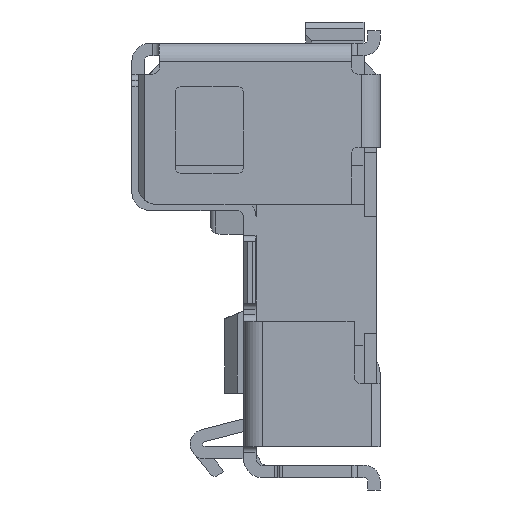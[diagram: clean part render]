
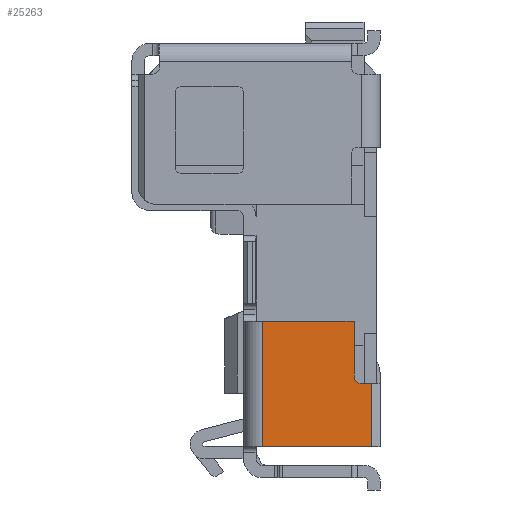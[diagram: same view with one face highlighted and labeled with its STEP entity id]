
A CAD part, left-side view. The second image highlights one B-rep face of the part: STEP entity #25263.
In plain terms, the highlighted planar face has unit normal (-1, 0, 0).
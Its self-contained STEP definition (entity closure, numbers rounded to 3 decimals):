
#717 = VERTEX_POINT ( 'NONE', #15878 ) ;
#1109 = DIRECTION ( 'NONE',  ( 0., 0., 1. ) ) ;
#1358 = LINE ( 'NONE', #15637, #24289 ) ;
#1751 = CARTESIAN_POINT ( 'NONE',  ( -15.635, 0.07, 1.25 ) ) ;
#2945 = DIRECTION ( 'NONE',  ( 0., 0., -1. ) ) ;
#5225 = DIRECTION ( 'NONE',  ( 0., -1., 0. ) ) ;
#5345 = VECTOR ( 'NONE', #1109, 1000. ) ;
#9232 = FACE_OUTER_BOUND ( 'NONE', #10351, .T. ) ;
#9492 = ORIENTED_EDGE ( 'NONE', *, *, #38449, .T. ) ;
#9837 = LINE ( 'NONE', #54265, #51216 ) ;
#10116 = CARTESIAN_POINT ( 'NONE',  ( -15.635, 0.21, 0.74 ) ) ;
#10351 = EDGE_LOOP ( 'NONE', ( #9492, #55987, #48331, #21373, #19151, #60207, #23867 ) ) ;
#12678 = EDGE_CURVE ( 'NONE', #55384, #30968, #50212, .T. ) ;
#14073 = VERTEX_POINT ( 'NONE', #60679 ) ;
#14970 = AXIS2_PLACEMENT_3D ( 'NONE', #46444, #61062, #2945 ) ;
#15637 = CARTESIAN_POINT ( 'NONE',  ( -15.635, 1.85, 0.74 ) ) ;
#15878 = CARTESIAN_POINT ( 'NONE',  ( -15.635, 0.95, 0.74 ) ) ;
#19135 = VECTOR ( 'NONE', #5225, 1000. ) ;
#19151 = ORIENTED_EDGE ( 'NONE', *, *, #23108, .F. ) ;
#19744 = CARTESIAN_POINT ( 'NONE',  ( -15.635, 0.07, 0.74 ) ) ;
#20803 = CARTESIAN_POINT ( 'NONE',  ( -15.635, 0.95, 1.75 ) ) ;
#21094 = EDGE_CURVE ( 'NONE', #47815, #49812, #33513, .T. ) ;
#21373 = ORIENTED_EDGE ( 'NONE', *, *, #36126, .T. ) ;
#21691 = CARTESIAN_POINT ( 'NONE',  ( -15.635, 0.21, 1.75 ) ) ;
#22953 = CARTESIAN_POINT ( 'NONE',  ( -15.635, 0.95, 1.75 ) ) ;
#23108 = EDGE_CURVE ( 'NONE', #30968, #717, #1358, .T. ) ;
#23224 = DIRECTION ( 'NONE',  ( 1., 0., 0. ) ) ;
#23867 = ORIENTED_EDGE ( 'NONE', *, *, #25863, .T. ) ;
#24289 = VECTOR ( 'NONE', #34611, 1000. ) ;
#25263 = ADVANCED_FACE ( 'NONE', ( #9232 ), #57102, .F. ) ;
#25863 = EDGE_CURVE ( 'NONE', #55384, #14073, #9837, .T. ) ;
#27884 = VERTEX_POINT ( 'NONE', #54429 ) ;
#28935 = DIRECTION ( 'NONE',  ( 0., 0., -1. ) ) ;
#29348 = AXIS2_PLACEMENT_3D ( 'NONE', #60861, #23224, #51512 ) ;
#29782 = EDGE_CURVE ( 'NONE', #27884, #49812, #38405, .T. ) ;
#30625 = VECTOR ( 'NONE', #28935, 1000. ) ;
#30968 = VERTEX_POINT ( 'NONE', #19744 ) ;
#33513 = LINE ( 'NONE', #22953, #19135 ) ;
#33595 = LINE ( 'NONE', #52558, #30625 ) ;
#34611 = DIRECTION ( 'NONE',  ( 0., 1., 0. ) ) ;
#36126 = EDGE_CURVE ( 'NONE', #47815, #717, #33595, .T. ) ;
#38405 = LINE ( 'NONE', #10116, #5345 ) ;
#38449 = EDGE_CURVE ( 'NONE', #14073, #27884, #44755, .T. ) ;
#40584 = DIRECTION ( 'NONE',  ( 0., 0., -1. ) ) ;
#44755 = CIRCLE ( 'NONE', #14970, 0.05 ) ;
#46444 = CARTESIAN_POINT ( 'NONE',  ( -15.635, 0.16, 1.3 ) ) ;
#47815 = VERTEX_POINT ( 'NONE', #20803 ) ;
#48331 = ORIENTED_EDGE ( 'NONE', *, *, #21094, .F. ) ;
#49812 = VERTEX_POINT ( 'NONE', #21691 ) ;
#50212 = LINE ( 'NONE', #1751, #60795 ) ;
#51216 = VECTOR ( 'NONE', #54570, 1000. ) ;
#51512 = DIRECTION ( 'NONE',  ( 0., 0., -1. ) ) ;
#52558 = CARTESIAN_POINT ( 'NONE',  ( -15.635, 0.95, 2.04 ) ) ;
#54265 = CARTESIAN_POINT ( 'NONE',  ( -15.635, 0.11, 1.25 ) ) ;
#54429 = CARTESIAN_POINT ( 'NONE',  ( -15.635, 0.21, 1.3 ) ) ;
#54570 = DIRECTION ( 'NONE',  ( 0., 1., 0. ) ) ;
#55384 = VERTEX_POINT ( 'NONE', #58621 ) ;
#55987 = ORIENTED_EDGE ( 'NONE', *, *, #29782, .T. ) ;
#57102 = PLANE ( 'NONE',  #29348 ) ;
#58621 = CARTESIAN_POINT ( 'NONE',  ( -15.635, 0.07, 1.25 ) ) ;
#60207 = ORIENTED_EDGE ( 'NONE', *, *, #12678, .F. ) ;
#60679 = CARTESIAN_POINT ( 'NONE',  ( -15.635, 0.16, 1.25 ) ) ;
#60795 = VECTOR ( 'NONE', #40584, 1000. ) ;
#60861 = CARTESIAN_POINT ( 'NONE',  ( -15.635, 1.85, 0.74 ) ) ;
#61062 = DIRECTION ( 'NONE',  ( 1., 0., 0. ) ) ;
